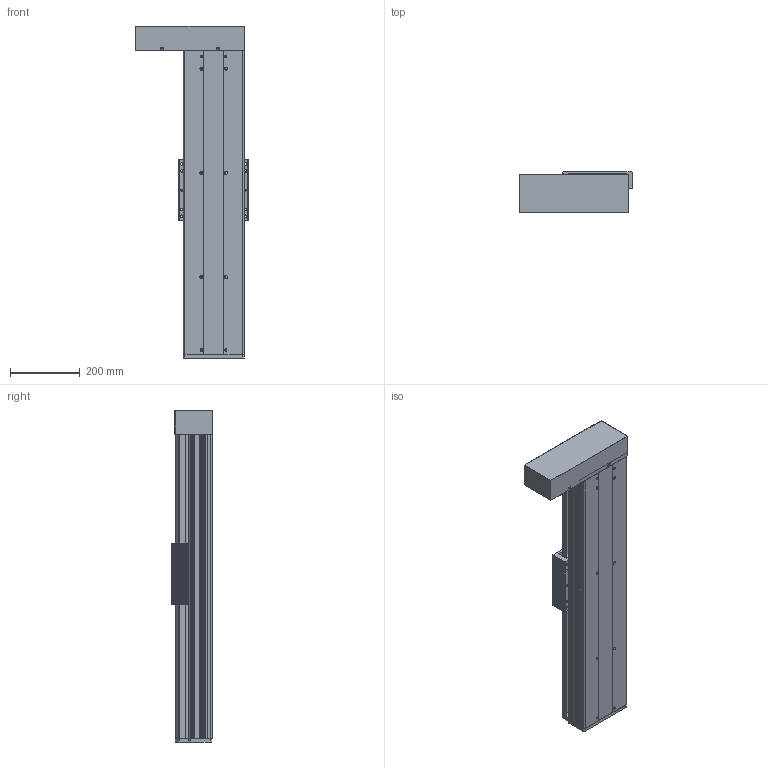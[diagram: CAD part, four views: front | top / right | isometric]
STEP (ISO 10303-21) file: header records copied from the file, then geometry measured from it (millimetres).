
FILE_DESCRIPTION (( 'STEP AP214' ), '1' );
FILE_NAME ('CF175B-C-600-FWL.STEP', '2019-12-03T03:14:20', ( '微软用户' ), ( '微软中国' ), 'SwSTEP 2.0', 'SolidWorks 2016', '' );
FILE_SCHEMA (( 'AUTOMOTIVE_DESIGN' ));
Length unit declared in the file: millimetre
Products named in the file (12): 肮祭謫欶; 175B殏俔萇儂啣; 175-2同步带从动端固定座; CF175-2賑雄啣; EGR20絳寢-600; 175B臏倰第-600; CF175B-600; CF175-2蹟譫釱; 175-2盓傅釱; 175-2耜啣; CF-EGH20CA賑輸; CF175B-C-600-FWL
Assembly tree (15 placements, depth 2):
  CF175B-C-600-FWL
    CF-EGH20CA賑輸  x4
    175-2耜啣
    175-2盓傅釱
    CF175-2蹟譫釱
    CF175B-600
    175B臏倰第-600
    EGR20絳寢-600  x2
    CF175-2賑雄啣
    175-2同步带从动端固定座
    175B殏俔萇儂啣
    肮祭謫欶
Bounding box: 324.5 x 118.3 x 955 mm (x, y, z)
Volume: 7237993 mm3; surface area: 2156100.8 mm2
Topology: 21 solids, 21 shells, 1338 faces, 3497 edges, 2317 vertices
Faces by surface type: cylinder 671, plane 657, cone 8, bspline 2
Entity records: 34106 total; most frequent: DIRECTION 5755, CARTESIAN_POINT 5627, ORIENTED_EDGE 5280, EDGE_CURVE 2640, AXIS2_PLACEMENT_3D 2121, VERTEX_POINT 1753, LINE 1513, VECTOR 1513
